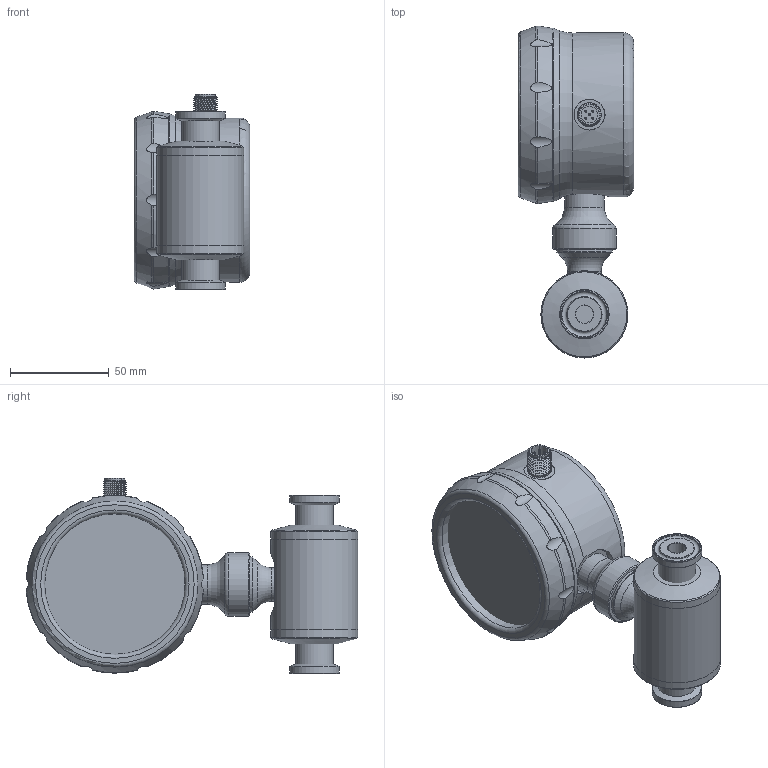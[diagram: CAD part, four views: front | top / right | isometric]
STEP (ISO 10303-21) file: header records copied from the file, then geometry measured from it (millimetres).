
FILE_DESCRIPTION( (''), '2;1');
FILE_NAME( 'QMKD_DN4_H25.4_tri-clamp.step', '2024-08-30T09:33:06+08:00', (''), (''), '', '', '');
FILE_SCHEMA (('AUTOMOTIVE_DESIGN { 1 0 10303 214 3 1 1 1 }'));
Length unit declared in the file: millimetre
Products named in the file (1): QMKD DN4_H25.4_tri-clamp
Bounding box: 58.5 x 167.81 x 98.6 mm (x, y, z)
Volume: 444651.6 mm3; surface area: 80182.5 mm2
Topology: 11 solids, 11 shells, 208 faces, 480 edges, 304 vertices
Faces by surface type: cylinder 78, plane 43, torus 30, cone 25, sphere 20, bspline 12
Full cylindrical faces by diameter (mm): 9 x2, 11.6 x2, 15 x2, 15.5 x1, 17 x1, 18 x2, 19 x2, 20 x1, 25 x2, 26 x1, 28 x1, 32 x1, 38 x2, 44 x3, 71 x1, 80 x2, 83 x1
Entity records: 8107 total; most frequent: CARTESIAN_POINT 3912, DIRECTION 847, ORIENTED_EDGE 736, AXIS2_PLACEMENT_3D 399, EDGE_CURVE 368, EDGE_LOOP 305, VERTEX_POINT 275, ADVANCED_FACE 207
